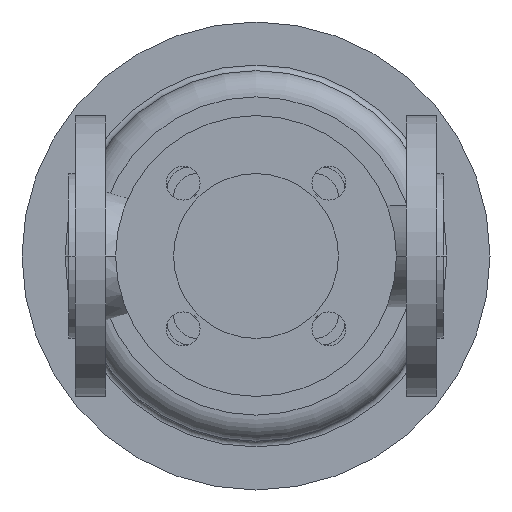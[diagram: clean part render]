
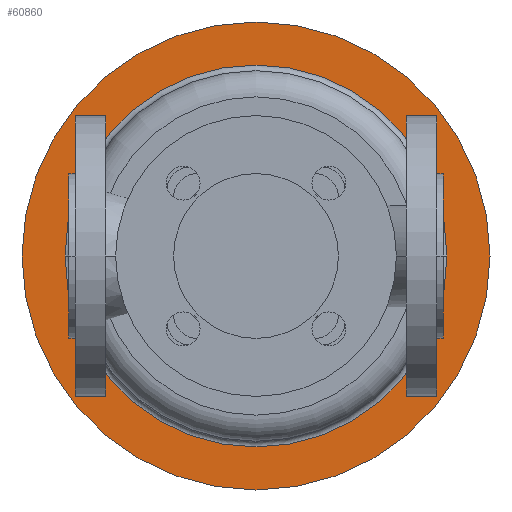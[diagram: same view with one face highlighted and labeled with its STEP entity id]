
A CAD part, front view. The second image highlights one B-rep face of the part: STEP entity #60860.
In plain terms, the highlighted planar face has unit normal (0, -1, 0).
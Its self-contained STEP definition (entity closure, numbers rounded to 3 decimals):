
#49710=CARTESIAN_POINT('',(-25.,587.5,0.));
#49720=VERTEX_POINT('',#49710);
#49750=CARTESIAN_POINT('',(100.,587.5,0.));
#49760=DIRECTION('',(0.,1.,0.));
#49770=DIRECTION('',(1.,0.,0.));
#49780=AXIS2_PLACEMENT_3D('',#49750,#49760,#49770);
#49790=CIRCLE('',#49780,125.);
#49800=CARTESIAN_POINT('',(225.,587.5,0.));
#49810=VERTEX_POINT('',#49800);
#49820=EDGE_CURVE('',#49810,#49720,#49790,.T.);
#50140=CARTESIAN_POINT('',(-2.,587.5,0.));
#50150=VERTEX_POINT('',#50140);
#50180=CARTESIAN_POINT('',(100.,587.5,0.));
#50190=DIRECTION('',(0.,1.,0.));
#50200=DIRECTION('',(1.,0.,0.));
#50210=AXIS2_PLACEMENT_3D('',#50180,#50190,#50200);
#50220=CIRCLE('',#50210,102.);
#50230=CARTESIAN_POINT('',(202.,587.5,0.));
#50240=VERTEX_POINT('',#50230);
#50250=EDGE_CURVE('',#50150,#50240,#50220,.T.);
#60710=CARTESIAN_POINT('',(213.5,587.5,0.));
#60720=DIRECTION('',(0.,-1.,0.));
#60730=DIRECTION('',(-1.,0.,0.));
#60740=AXIS2_PLACEMENT_3D('',#60710,#60720,#60730);
#60750=PLANE('',#60740);
#60760=EDGE_CURVE('',#49720,#49810,#49790,.T.);
#60770=ORIENTED_EDGE('',*,*,#60760,.F.);
#60780=ORIENTED_EDGE('',*,*,#49820,.F.);
#60790=EDGE_LOOP('',(#60780,#60770));
#60800=FACE_OUTER_BOUND('',#60790,.T.);
#60810=EDGE_CURVE('',#50240,#50150,#50220,.T.);
#60820=ORIENTED_EDGE('',*,*,#60810,.T.);
#60830=ORIENTED_EDGE('',*,*,#50250,.T.);
#60840=EDGE_LOOP('',(#60830,#60820));
#60850=FACE_BOUND('',#60840,.T.);
#60860=ADVANCED_FACE('',(#60800,#60850),#60750,.T.);
